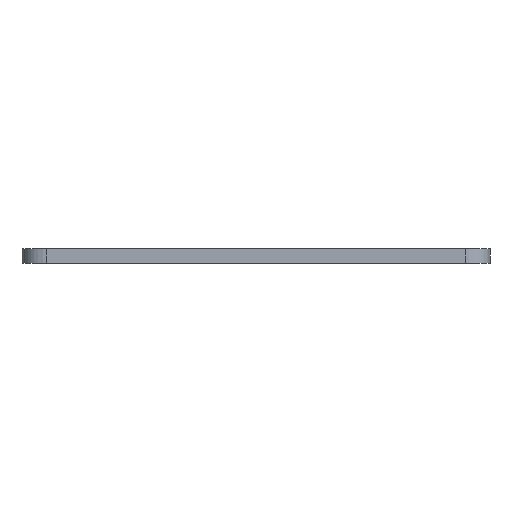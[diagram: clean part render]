
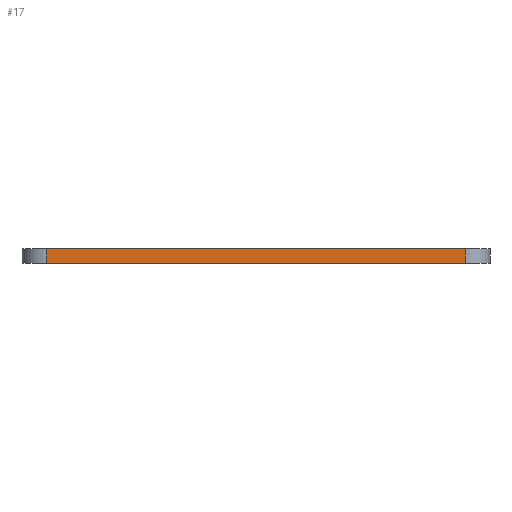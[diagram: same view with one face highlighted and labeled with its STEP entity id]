
A CAD part, left-side view. The second image highlights one B-rep face of the part: STEP entity #17.
In plain terms, the highlighted planar face has unit normal (-1, 0, 0).
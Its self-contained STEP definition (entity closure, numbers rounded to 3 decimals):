
#17 = ADVANCED_FACE('',(#18),#32,.F.);
#18 = FACE_BOUND('',#19,.F.);
#19 = EDGE_LOOP('',(#20,#55,#83,#111));
#20 = ORIENTED_EDGE('',*,*,#21,.F.);
#21 = EDGE_CURVE('',#22,#24,#26,.T.);
#22 = VERTEX_POINT('',#23);
#23 = CARTESIAN_POINT('',(-47.,-42.,25.));
#24 = VERTEX_POINT('',#25);
#25 = CARTESIAN_POINT('',(-47.,42.,25.));
#26 = SURFACE_CURVE('',#27,(#31,#43),.PCURVE_S1.);
#27 = LINE('',#28,#29);
#28 = CARTESIAN_POINT('',(-47.,-47.,25.));
#29 = VECTOR('',#30,1.);
#30 = DIRECTION('',(0.,1.,0.));
#31 = PCURVE('',#32,#37);
#32 = PLANE('',#33);
#33 = AXIS2_PLACEMENT_3D('',#34,#35,#36);
#34 = CARTESIAN_POINT('',(-47.,-47.,22.));
#35 = DIRECTION('',(1.,0.,0.));
#36 = DIRECTION('',(0.,0.,1.));
#37 = DEFINITIONAL_REPRESENTATION('',(#38),#42);
#38 = LINE('',#39,#40);
#39 = CARTESIAN_POINT('',(3.,0.));
#40 = VECTOR('',#41,1.);
#41 = DIRECTION('',(0.,-1.));
#42 = ( GEOMETRIC_REPRESENTATION_CONTEXT(2) 
PARAMETRIC_REPRESENTATION_CONTEXT() REPRESENTATION_CONTEXT('2D SPACE',''
  ) );
#43 = PCURVE('',#44,#49);
#44 = PLANE('',#45);
#45 = AXIS2_PLACEMENT_3D('',#46,#47,#48);
#46 = CARTESIAN_POINT('',(-47.,-47.,25.));
#47 = DIRECTION('',(0.,0.,1.));
#48 = DIRECTION('',(1.,0.,0.));
#49 = DEFINITIONAL_REPRESENTATION('',(#50),#54);
#50 = LINE('',#51,#52);
#51 = CARTESIAN_POINT('',(0.,0.));
#52 = VECTOR('',#53,1.);
#53 = DIRECTION('',(0.,1.));
#54 = ( GEOMETRIC_REPRESENTATION_CONTEXT(2) 
PARAMETRIC_REPRESENTATION_CONTEXT() REPRESENTATION_CONTEXT('2D SPACE',''
  ) );
#55 = ORIENTED_EDGE('',*,*,#56,.F.);
#56 = EDGE_CURVE('',#57,#22,#59,.T.);
#57 = VERTEX_POINT('',#58);
#58 = CARTESIAN_POINT('',(-47.,-42.,22.));
#59 = SURFACE_CURVE('',#60,(#64,#71),.PCURVE_S1.);
#60 = LINE('',#61,#62);
#61 = CARTESIAN_POINT('',(-47.,-42.,22.));
#62 = VECTOR('',#63,1.);
#63 = DIRECTION('',(0.,0.,1.));
#64 = PCURVE('',#32,#65);
#65 = DEFINITIONAL_REPRESENTATION('',(#66),#70);
#66 = LINE('',#67,#68);
#67 = CARTESIAN_POINT('',(0.,-5.));
#68 = VECTOR('',#69,1.);
#69 = DIRECTION('',(1.,0.));
#70 = ( GEOMETRIC_REPRESENTATION_CONTEXT(2) 
PARAMETRIC_REPRESENTATION_CONTEXT() REPRESENTATION_CONTEXT('2D SPACE',''
  ) );
#71 = PCURVE('',#72,#77);
#72 = CYLINDRICAL_SURFACE('',#73,5.);
#73 = AXIS2_PLACEMENT_3D('',#74,#75,#76);
#74 = CARTESIAN_POINT('',(-42.,-42.,22.));
#75 = DIRECTION('',(0.,0.,1.));
#76 = DIRECTION('',(-1.,-0.,0.));
#77 = DEFINITIONAL_REPRESENTATION('',(#78),#82);
#78 = LINE('',#79,#80);
#79 = CARTESIAN_POINT('',(0.,0.));
#80 = VECTOR('',#81,1.);
#81 = DIRECTION('',(0.,1.));
#82 = ( GEOMETRIC_REPRESENTATION_CONTEXT(2) 
PARAMETRIC_REPRESENTATION_CONTEXT() REPRESENTATION_CONTEXT('2D SPACE',''
  ) );
#83 = ORIENTED_EDGE('',*,*,#84,.T.);
#84 = EDGE_CURVE('',#57,#85,#87,.T.);
#85 = VERTEX_POINT('',#86);
#86 = CARTESIAN_POINT('',(-47.,42.,22.));
#87 = SURFACE_CURVE('',#88,(#92,#99),.PCURVE_S1.);
#88 = LINE('',#89,#90);
#89 = CARTESIAN_POINT('',(-47.,-47.,22.));
#90 = VECTOR('',#91,1.);
#91 = DIRECTION('',(0.,1.,0.));
#92 = PCURVE('',#32,#93);
#93 = DEFINITIONAL_REPRESENTATION('',(#94),#98);
#94 = LINE('',#95,#96);
#95 = CARTESIAN_POINT('',(0.,0.));
#96 = VECTOR('',#97,1.);
#97 = DIRECTION('',(0.,-1.));
#98 = ( GEOMETRIC_REPRESENTATION_CONTEXT(2) 
PARAMETRIC_REPRESENTATION_CONTEXT() REPRESENTATION_CONTEXT('2D SPACE',''
  ) );
#99 = PCURVE('',#100,#105);
#100 = PLANE('',#101);
#101 = AXIS2_PLACEMENT_3D('',#102,#103,#104);
#102 = CARTESIAN_POINT('',(-47.,-47.,22.));
#103 = DIRECTION('',(0.,0.,1.));
#104 = DIRECTION('',(1.,0.,0.));
#105 = DEFINITIONAL_REPRESENTATION('',(#106),#110);
#106 = LINE('',#107,#108);
#107 = CARTESIAN_POINT('',(0.,0.));
#108 = VECTOR('',#109,1.);
#109 = DIRECTION('',(0.,1.));
#110 = ( GEOMETRIC_REPRESENTATION_CONTEXT(2) 
PARAMETRIC_REPRESENTATION_CONTEXT() REPRESENTATION_CONTEXT('2D SPACE',''
  ) );
#111 = ORIENTED_EDGE('',*,*,#112,.T.);
#112 = EDGE_CURVE('',#85,#24,#113,.T.);
#113 = SURFACE_CURVE('',#114,(#118,#125),.PCURVE_S1.);
#114 = LINE('',#115,#116);
#115 = CARTESIAN_POINT('',(-47.,42.,22.));
#116 = VECTOR('',#117,1.);
#117 = DIRECTION('',(0.,0.,1.));
#118 = PCURVE('',#32,#119);
#119 = DEFINITIONAL_REPRESENTATION('',(#120),#124);
#120 = LINE('',#121,#122);
#121 = CARTESIAN_POINT('',(0.,-89.));
#122 = VECTOR('',#123,1.);
#123 = DIRECTION('',(1.,0.));
#124 = ( GEOMETRIC_REPRESENTATION_CONTEXT(2) 
PARAMETRIC_REPRESENTATION_CONTEXT() REPRESENTATION_CONTEXT('2D SPACE',''
  ) );
#125 = PCURVE('',#126,#131);
#126 = CYLINDRICAL_SURFACE('',#127,5.);
#127 = AXIS2_PLACEMENT_3D('',#128,#129,#130);
#128 = CARTESIAN_POINT('',(-42.,42.,22.));
#129 = DIRECTION('',(0.,0.,1.));
#130 = DIRECTION('',(-1.,-0.,0.));
#131 = DEFINITIONAL_REPRESENTATION('',(#132),#136);
#132 = LINE('',#133,#134);
#133 = CARTESIAN_POINT('',(-0.,0.));
#134 = VECTOR('',#135,1.);
#135 = DIRECTION('',(-0.,1.));
#136 = ( GEOMETRIC_REPRESENTATION_CONTEXT(2) 
PARAMETRIC_REPRESENTATION_CONTEXT() REPRESENTATION_CONTEXT('2D SPACE',''
  ) );
